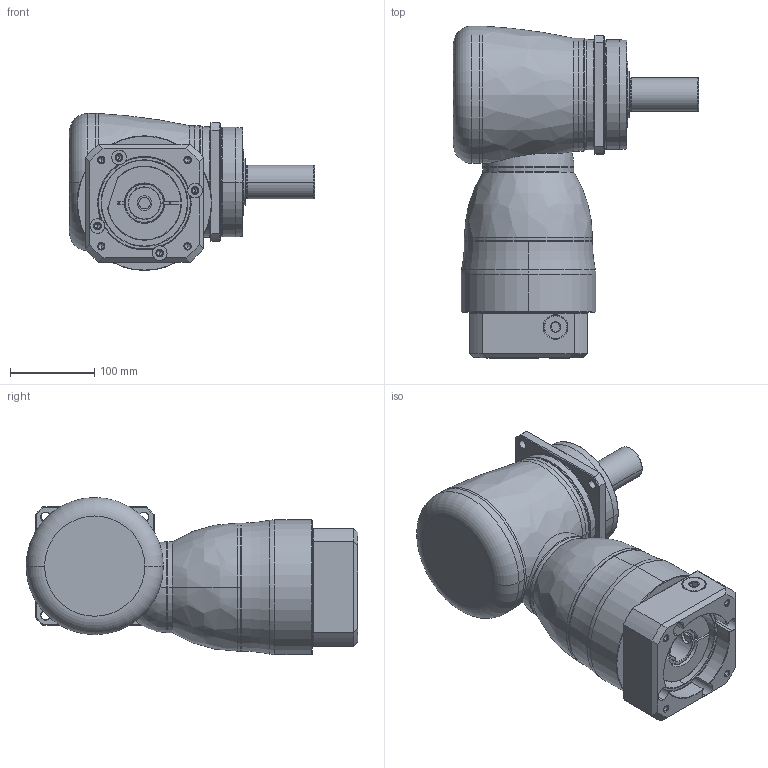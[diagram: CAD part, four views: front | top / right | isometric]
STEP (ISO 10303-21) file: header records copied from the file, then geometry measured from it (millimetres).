
FILE_DESCRIPTION((''),'2;1');
FILE_NAME('KF140_2ST_38-P0409900101_ASM','2016-06-27T',('d01943'),(''),'PRO/ENGINEER BY PARAMETRIC TECHNOLOGY CORPORATION, 2008410','PRO/ENGINEER BY PARAMETRIC TECHNOLOGY CORPORATION, 2008410','');
FILE_SCHEMA(('CONFIG_CONTROL_DESIGN'));
Length unit declared in the file: millimetre
Products named in the file (11): P1008500002; P1804500001; P0915500001; P1315500001; P1007500001; P1317500501; P0409900101; P0503900012; P0912405001; 21711422019; KF140_2ST_38-P0409900101_ASM
Assembly tree (10 placements, depth 2):
  KF140_2ST_38-P0409900101_ASM
    P1008500002
    P1804500001
    P0915500001
    P1315500001
    P1007500001
    P1317500501
    P0409900101
    P0503900012
    P0912405001
    21711422019
Bounding box: 291 x 394 x 186.5 mm (x, y, z)
Volume: 5554613.9 mm3; surface area: 591197.1 mm2
Topology: 11 solids, 11 shells, 469 faces, 1065 edges, 636 vertices
Faces by surface type: cylinder 158, cone 126, plane 100, torus 62, bspline 21, sphere 2
Entity records: 18276 total; most frequent: CARTESIAN_POINT 7464, DIRECTION 2391, ORIENTED_EDGE 2094, EDGE_CURVE 1047, AXIS2_PLACEMENT_3D 1015, VERTEX_POINT 636, CIRCLE 546, EDGE_LOOP 539
